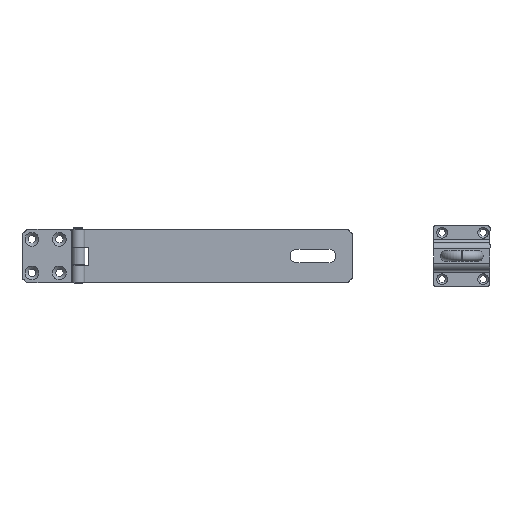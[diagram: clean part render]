
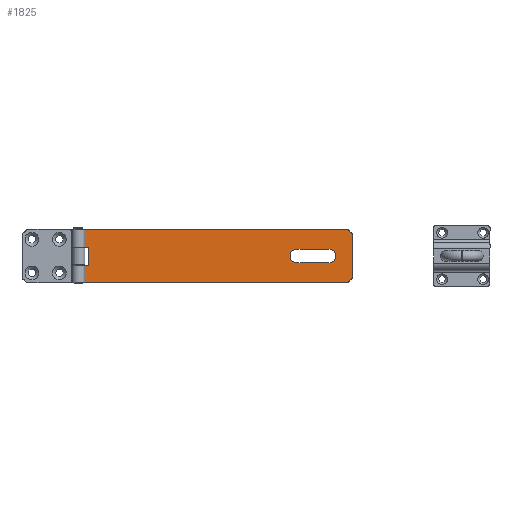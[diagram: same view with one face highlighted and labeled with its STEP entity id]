
A CAD part, top view. The second image highlights one B-rep face of the part: STEP entity #1825.
In plain terms, the highlighted planar face has unit normal (0, 0, 1).
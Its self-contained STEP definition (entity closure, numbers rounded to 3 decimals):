
#69=FACE_BOUND('',#332,.T.);
#121=PLANE('',#1996);
#201=FACE_OUTER_BOUND('',#331,.T.);
#331=EDGE_LOOP('',(#1445,#1446,#1447,#1448,#1449,#1450,#1451,#1452,#1453,
#1454,#1455,#1456,#1457,#1458));
#332=EDGE_LOOP('',(#1459,#1460,#1461,#1462));
#482=LINE('',#2886,#622);
#486=LINE('',#2898,#626);
#492=LINE('',#2921,#632);
#502=LINE('',#2954,#642);
#507=LINE('',#2970,#647);
#509=LINE('',#2980,#649);
#510=LINE('',#2982,#650);
#511=LINE('',#2984,#651);
#512=LINE('',#2986,#652);
#513=LINE('',#2987,#653);
#622=VECTOR('',#2287,21.);
#626=VECTOR('',#2299,21.);
#632=VECTOR('',#2323,176.268);
#642=VECTOR('',#2351,27.536);
#647=VECTOR('',#2370,176.268);
#649=VECTOR('',#2382,11.8);
#650=VECTOR('',#2383,6.75);
#651=VECTOR('',#2384,11.9);
#652=VECTOR('',#2385,6.75);
#653=VECTOR('',#2386,11.3);
#755=CIRCLE('',#1965,4.5);
#757=CIRCLE('',#1969,4.5);
#759=CIRCLE('',#1972,2.);
#767=CIRCLE('',#1983,2.);
#768=CIRCLE('',#1986,1.);
#769=CIRCLE('',#1988,2.);
#770=CIRCLE('',#1990,2.);
#773=CIRCLE('',#1995,1.);
#879=VERTEX_POINT('',#2883);
#880=VERTEX_POINT('',#2885);
#882=VERTEX_POINT('',#2891);
#884=VERTEX_POINT('',#2897);
#887=VERTEX_POINT('',#2907);
#888=VERTEX_POINT('',#2909);
#892=VERTEX_POINT('',#2919);
#904=VERTEX_POINT('',#2947);
#905=VERTEX_POINT('',#2948);
#906=VERTEX_POINT('',#2953);
#907=VERTEX_POINT('',#2959);
#908=VERTEX_POINT('',#2963);
#909=VERTEX_POINT('',#2964);
#910=VERTEX_POINT('',#2969);
#913=VERTEX_POINT('',#2979);
#914=VERTEX_POINT('',#2981);
#915=VERTEX_POINT('',#2983);
#916=VERTEX_POINT('',#2985);
#1064=EDGE_CURVE('',#880,#879,#482,.T.);
#1067=EDGE_CURVE('',#882,#880,#755,.T.);
#1070=EDGE_CURVE('',#884,#882,#486,.T.);
#1073=EDGE_CURVE('',#879,#884,#757,.T.);
#1076=EDGE_CURVE('',#887,#888,#759,.T.);
#1082=EDGE_CURVE('',#892,#887,#492,.T.);
#1095=EDGE_CURVE('',#904,#905,#767,.T.);
#1098=EDGE_CURVE('',#906,#905,#502,.T.);
#1100=EDGE_CURVE('',#888,#904,#768,.T.);
#1101=EDGE_CURVE('',#906,#907,#769,.T.);
#1103=EDGE_CURVE('',#908,#909,#770,.T.);
#1106=EDGE_CURVE('',#910,#909,#507,.T.);
#1110=EDGE_CURVE('',#907,#908,#773,.T.);
#1111=EDGE_CURVE('',#913,#892,#509,.T.);
#1112=EDGE_CURVE('',#913,#914,#510,.T.);
#1113=EDGE_CURVE('',#914,#915,#511,.T.);
#1114=EDGE_CURVE('',#915,#916,#512,.T.);
#1115=EDGE_CURVE('',#910,#916,#513,.T.);
#1445=ORIENTED_EDGE('',*,*,#1076,.F.);
#1446=ORIENTED_EDGE('',*,*,#1082,.F.);
#1447=ORIENTED_EDGE('',*,*,#1111,.F.);
#1448=ORIENTED_EDGE('',*,*,#1112,.T.);
#1449=ORIENTED_EDGE('',*,*,#1113,.T.);
#1450=ORIENTED_EDGE('',*,*,#1114,.T.);
#1451=ORIENTED_EDGE('',*,*,#1115,.F.);
#1452=ORIENTED_EDGE('',*,*,#1106,.T.);
#1453=ORIENTED_EDGE('',*,*,#1103,.F.);
#1454=ORIENTED_EDGE('',*,*,#1110,.F.);
#1455=ORIENTED_EDGE('',*,*,#1101,.F.);
#1456=ORIENTED_EDGE('',*,*,#1098,.T.);
#1457=ORIENTED_EDGE('',*,*,#1095,.F.);
#1458=ORIENTED_EDGE('',*,*,#1100,.F.);
#1459=ORIENTED_EDGE('',*,*,#1070,.T.);
#1460=ORIENTED_EDGE('',*,*,#1067,.T.);
#1461=ORIENTED_EDGE('',*,*,#1064,.T.);
#1462=ORIENTED_EDGE('',*,*,#1073,.T.);
#1825=ADVANCED_FACE('',(#201,#69),#121,.T.);
#1965=AXIS2_PLACEMENT_3D('',#2892,#2293,#2294);
#1969=AXIS2_PLACEMENT_3D('',#2902,#2305,#2306);
#1972=AXIS2_PLACEMENT_3D('',#2910,#2312,#2313);
#1983=AXIS2_PLACEMENT_3D('',#2949,#2345,#2346);
#1986=AXIS2_PLACEMENT_3D('',#2957,#2355,#2356);
#1988=AXIS2_PLACEMENT_3D('',#2960,#2359,#2360);
#1990=AXIS2_PLACEMENT_3D('',#2965,#2364,#2365);
#1995=AXIS2_PLACEMENT_3D('',#2977,#2378,#2379);
#1996=AXIS2_PLACEMENT_3D('',#2978,#2380,#2381);
#2287=DIRECTION('',(-1.,0.,0.));
#2293=DIRECTION('center_axis',(0.,0.,-1.));
#2294=DIRECTION('ref_axis',(0.,-1.,0.));
#2299=DIRECTION('',(1.,0.,0.));
#2305=DIRECTION('center_axis',(0.,0.,-1.));
#2306=DIRECTION('ref_axis',(0.,1.,0.));
#2312=DIRECTION('center_axis',(0.,0.,-1.));
#2313=DIRECTION('ref_axis',(0.866,0.5,0.));
#2323=DIRECTION('',(1.,0.,0.));
#2345=DIRECTION('center_axis',(0.,0.,-1.));
#2346=DIRECTION('ref_axis',(0.5,0.866,0.));
#2351=DIRECTION('',(0.,1.,0.));
#2355=DIRECTION('center_axis',(0.,0.,1.));
#2356=DIRECTION('ref_axis',(-0.707,-0.707,0.));
#2359=DIRECTION('center_axis',(0.,0.,-1.));
#2360=DIRECTION('ref_axis',(0.5,-0.866,0.));
#2364=DIRECTION('center_axis',(0.,0.,-1.));
#2365=DIRECTION('ref_axis',(0.866,-0.5,0.));
#2370=DIRECTION('',(1.,0.,0.));
#2378=DIRECTION('center_axis',(0.,0.,1.));
#2379=DIRECTION('ref_axis',(-0.707,0.707,0.));
#2380=DIRECTION('center_axis',(0.,0.,1.));
#2381=DIRECTION('ref_axis',(1.,0.,0.));
#2382=DIRECTION('',(0.,1.,0.));
#2383=DIRECTION('',(1.,0.,0.));
#2384=DIRECTION('',(0.,-1.,0.));
#2385=DIRECTION('',(-1.,0.,0.));
#2386=DIRECTION('',(0.,1.,0.));
#2883=CARTESIAN_POINT('',(143.5,13.,2.));
#2885=CARTESIAN_POINT('',(164.5,13.,2.));
#2886=CARTESIAN_POINT('',(82.25,13.,2.));
#2891=CARTESIAN_POINT('',(164.5,22.,2.));
#2892=CARTESIAN_POINT('Origin',(164.5,17.5,2.));
#2897=CARTESIAN_POINT('',(143.5,22.,2.));
#2898=CARTESIAN_POINT('',(71.75,22.,2.));
#2902=CARTESIAN_POINT('Origin',(143.5,17.5,2.));
#2907=CARTESIAN_POINT('',(176.268,35.,2.));
#2909=CARTESIAN_POINT('',(178.,34.,2.));
#2910=CARTESIAN_POINT('Origin',(176.268,33.,2.));
#2919=CARTESIAN_POINT('',(0.,35.,2.));
#2921=CARTESIAN_POINT('',(0.,35.,2.));
#2947=CARTESIAN_POINT('',(179.,33.,2.));
#2948=CARTESIAN_POINT('',(180.,31.268,2.));
#2949=CARTESIAN_POINT('Origin',(178.,31.268,2.));
#2953=CARTESIAN_POINT('',(180.,3.732,2.));
#2954=CARTESIAN_POINT('',(180.,0.,2.));
#2957=CARTESIAN_POINT('Origin',(179.,34.,2.));
#2959=CARTESIAN_POINT('',(179.,2.,2.));
#2960=CARTESIAN_POINT('Origin',(178.,3.732,2.));
#2963=CARTESIAN_POINT('',(178.,1.,2.));
#2964=CARTESIAN_POINT('',(176.268,0.,2.));
#2965=CARTESIAN_POINT('Origin',(176.268,2.,2.));
#2969=CARTESIAN_POINT('',(0.,0.,2.));
#2970=CARTESIAN_POINT('',(0.,0.,2.));
#2977=CARTESIAN_POINT('Origin',(179.,1.,2.));
#2978=CARTESIAN_POINT('Origin',(0.,0.,2.));
#2979=CARTESIAN_POINT('',(0.,23.2,2.));
#2980=CARTESIAN_POINT('',(0.,0.,2.));
#2981=CARTESIAN_POINT('',(6.75,23.2,2.));
#2982=CARTESIAN_POINT('',(-2.125,23.2,2.));
#2983=CARTESIAN_POINT('',(6.75,11.3,2.));
#2984=CARTESIAN_POINT('',(6.75,5.8,2.));
#2985=CARTESIAN_POINT('',(0.,11.3,2.));
#2986=CARTESIAN_POINT('',(3.375,11.3,2.));
#2987=CARTESIAN_POINT('',(0.,0.,2.));
